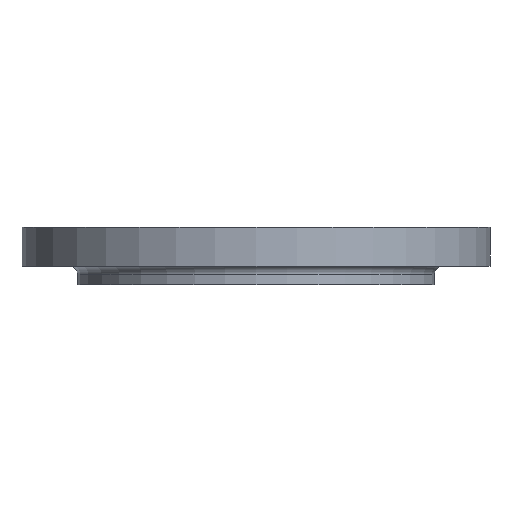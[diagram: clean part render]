
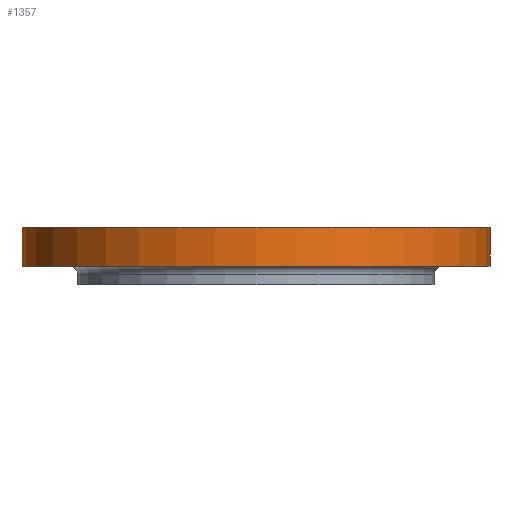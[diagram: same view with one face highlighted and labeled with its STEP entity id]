
A CAD part, front view. The second image highlights one B-rep face of the part: STEP entity #1357.
In plain terms, the highlighted cylindrical face has radius 342.5 mm (diameter 685 mm), a partial arc.
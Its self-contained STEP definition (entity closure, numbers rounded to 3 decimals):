
#66 = CARTESIAN_POINT ( 'NONE',  ( -342.5, 0., 0. ) ) ;
#73 = CARTESIAN_POINT ( 'NONE',  ( 342.5, 0., -57. ) ) ;
#109 = CARTESIAN_POINT ( 'NONE',  ( -342.5, 0., -150. ) ) ;
#113 = DIRECTION ( 'NONE',  ( 1., 0., 0. ) ) ;
#169 = CARTESIAN_POINT ( 'NONE',  ( 342.5, 0., 0. ) ) ;
#180 = DIRECTION ( 'NONE',  ( 1., 0., 0. ) ) ;
#284 = VERTEX_POINT ( 'NONE', #169 ) ;
#348 = VECTOR ( 'NONE', #1708, 1000. ) ;
#401 = CYLINDRICAL_SURFACE ( 'NONE', #441, 342.5 ) ;
#441 = AXIS2_PLACEMENT_3D ( 'NONE', #1060, #1574, #180 ) ;
#532 = CARTESIAN_POINT ( 'NONE',  ( 0., 0., 0. ) ) ;
#534 = VERTEX_POINT ( 'NONE', #73 ) ;
#560 = VERTEX_POINT ( 'NONE', #66 ) ;
#630 = ORIENTED_EDGE ( 'NONE', *, *, #1251, .T. ) ;
#642 = ORIENTED_EDGE ( 'NONE', *, *, #1479, .F. ) ;
#701 = AXIS2_PLACEMENT_3D ( 'NONE', #532, #1144, #1636 ) ;
#713 = LINE ( 'NONE', #1298, #348 ) ;
#732 = EDGE_LOOP ( 'NONE', ( #642, #630, #1414, #1429 ) ) ;
#869 = DIRECTION ( 'NONE',  ( 0., 0., 1. ) ) ;
#1023 = CARTESIAN_POINT ( 'NONE',  ( 0., 0., -57. ) ) ;
#1060 = CARTESIAN_POINT ( 'NONE',  ( 0., 0., -150. ) ) ;
#1144 = DIRECTION ( 'NONE',  ( 0., 0., 1. ) ) ;
#1226 = AXIS2_PLACEMENT_3D ( 'NONE', #1023, #1543, #113 ) ;
#1251 = EDGE_CURVE ( 'NONE', #1339, #534, #1790, .T. ) ;
#1298 = CARTESIAN_POINT ( 'NONE',  ( 342.5, 0., -150. ) ) ;
#1339 = VERTEX_POINT ( 'NONE', #1478 ) ;
#1357 = ADVANCED_FACE ( 'NONE', ( #1667 ), #401, .T. ) ;
#1414 = ORIENTED_EDGE ( 'NONE', *, *, #1456, .T. ) ;
#1429 = ORIENTED_EDGE ( 'NONE', *, *, #1460, .F. ) ;
#1456 = EDGE_CURVE ( 'NONE', #534, #284, #713, .T. ) ;
#1460 = EDGE_CURVE ( 'NONE', #560, #284, #1489, .T. ) ;
#1478 = CARTESIAN_POINT ( 'NONE',  ( -342.5, 0., -57. ) ) ;
#1479 = EDGE_CURVE ( 'NONE', #1339, #560, #1541, .T. ) ;
#1489 = CIRCLE ( 'NONE', #701, 342.5 ) ;
#1541 = LINE ( 'NONE', #109, #1730 ) ;
#1543 = DIRECTION ( 'NONE',  ( 0., 0., 1. ) ) ;
#1574 = DIRECTION ( 'NONE',  ( 0., 0., 1. ) ) ;
#1636 = DIRECTION ( 'NONE',  ( 1., 0., 0. ) ) ;
#1667 = FACE_OUTER_BOUND ( 'NONE', #732, .T. ) ;
#1708 = DIRECTION ( 'NONE',  ( 0., 0., 1. ) ) ;
#1730 = VECTOR ( 'NONE', #869, 1000. ) ;
#1790 = CIRCLE ( 'NONE', #1226, 342.5 ) ;
